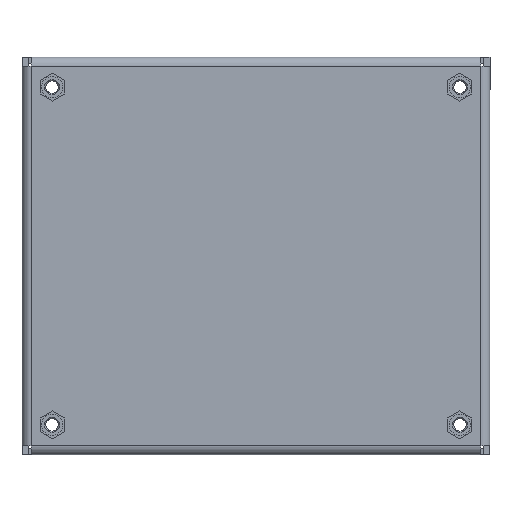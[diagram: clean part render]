
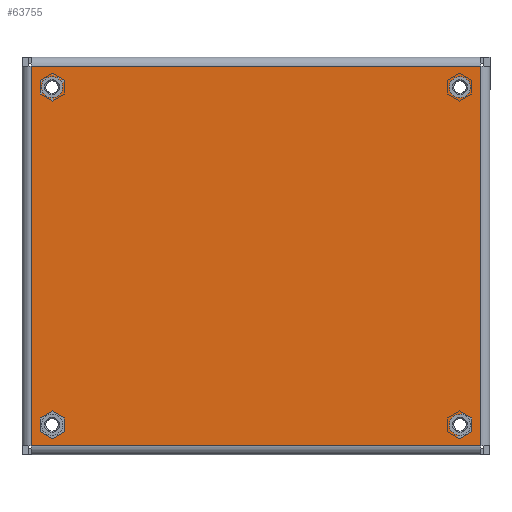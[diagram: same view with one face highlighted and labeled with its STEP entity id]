
A CAD part, front view. The second image highlights one B-rep face of the part: STEP entity #63755.
In plain terms, the highlighted planar face has unit normal (0, -1, 0) as drawn and (0, 0, -1) by its records, which use the part's own axes.
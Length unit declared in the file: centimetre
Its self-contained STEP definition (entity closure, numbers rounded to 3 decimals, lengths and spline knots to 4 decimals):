
#28250=CIRCLE('',#65922,0.211);
#28252=CIRCLE('',#65925,0.211);
#28254=CIRCLE('',#65928,0.211);
#28256=CIRCLE('',#65931,0.211);
#29212=VERTEX_POINT('',#79616);
#29239=VERTEX_POINT('',#79684);
#29253=VERTEX_POINT('',#79723);
#29255=VERTEX_POINT('',#79728);
#29257=VERTEX_POINT('',#79733);
#29259=VERTEX_POINT('',#79738);
#29260=VERTEX_POINT('',#79748);
#29262=VERTEX_POINT('',#79781);
#33113=VECTOR('',#69668,1.);
#33119=VECTOR('',#69685,1.);
#33126=VECTOR('',#69704,1.);
#33132=VECTOR('',#69722,1.);
#37307=LINE('',#79758,#33113);
#37313=LINE('',#79771,#33119);
#37320=LINE('',#79788,#33126);
#37326=LINE('',#79802,#33132);
#41502=EDGE_CURVE('',#29253,#29253,#28250,.T.);
#41504=EDGE_CURVE('',#29255,#29255,#28252,.T.);
#41506=EDGE_CURVE('',#29257,#29257,#28254,.T.);
#41508=EDGE_CURVE('',#29259,#29259,#28256,.T.);
#41519=EDGE_CURVE('',#29212,#29260,#37307,.T.);
#41527=EDGE_CURVE('',#29260,#29239,#37313,.T.);
#41536=EDGE_CURVE('',#29239,#29262,#37320,.T.);
#41544=EDGE_CURVE('',#29262,#29212,#37326,.T.);
#47492=ORIENTED_EDGE('',*,*,#41502,.T.);
#47493=ORIENTED_EDGE('',*,*,#41504,.T.);
#47494=ORIENTED_EDGE('',*,*,#41506,.T.);
#47495=ORIENTED_EDGE('',*,*,#41508,.T.);
#47496=ORIENTED_EDGE('',*,*,#41544,.F.);
#47497=ORIENTED_EDGE('',*,*,#41536,.F.);
#47498=ORIENTED_EDGE('',*,*,#41527,.F.);
#47499=ORIENTED_EDGE('',*,*,#41519,.F.);
#59035=EDGE_LOOP('',(#47492));
#59036=EDGE_LOOP('',(#47493));
#59037=EDGE_LOOP('',(#47494));
#59038=EDGE_LOOP('',(#47495));
#59039=EDGE_LOOP('',(#47496,#47497,#47498,#47499));
#61399=FACE_BOUND('',#59035,.T.);
#61400=FACE_BOUND('',#59036,.T.);
#61401=FACE_BOUND('',#59037,.T.);
#61402=FACE_BOUND('',#59038,.T.);
#61403=FACE_BOUND('',#59039,.T.);
#63755=ADVANCED_FACE('',(#61399,#61400,#61401,#61402,#61403),#100271,.F.);
#65922=AXIS2_PLACEMENT_3D('',#79722,#69625,#69626);
#65925=AXIS2_PLACEMENT_3D('',#79727,#69631,#69632);
#65928=AXIS2_PLACEMENT_3D('',#79732,#69637,#69638);
#65931=AXIS2_PLACEMENT_3D('',#79737,#69643,#69644);
#65967=AXIS2_PLACEMENT_3D('',#79804,#69724,$);
#69625=DIRECTION('',(0.,0.,1.));
#69626=DIRECTION('',(0.211,0.,0.));
#69631=DIRECTION('',(0.,0.,1.));
#69632=DIRECTION('',(0.211,0.,0.));
#69637=DIRECTION('',(0.,0.,1.));
#69638=DIRECTION('',(0.211,0.,0.));
#69643=DIRECTION('',(0.,0.,1.));
#69644=DIRECTION('',(0.211,0.,0.));
#69668=DIRECTION('',(1.,0.,0.));
#69685=DIRECTION('',(0.,1.,0.));
#69704=DIRECTION('',(-1.,0.,0.));
#69722=DIRECTION('',(0.,-1.,0.));
#69724=DIRECTION('',(0.,0.,1.));
#79616=CARTESIAN_POINT('',(-3.7846,-4.4831,0.));
#79684=CARTESIAN_POINT('',(3.7846,4.4831,0.));
#79722=CARTESIAN_POINT('',(-3.3655,-4.064,0.));
#79723=CARTESIAN_POINT('',(-3.5765,-4.064,0.));
#79727=CARTESIAN_POINT('',(3.3655,-4.064,0.));
#79728=CARTESIAN_POINT('',(3.1545,-4.064,0.));
#79732=CARTESIAN_POINT('',(-3.3655,4.064,0.));
#79733=CARTESIAN_POINT('',(-3.5765,4.064,0.));
#79737=CARTESIAN_POINT('',(3.3655,4.064,0.));
#79738=CARTESIAN_POINT('',(3.1545,4.064,0.));
#79748=CARTESIAN_POINT('',(3.7846,-4.4831,0.));
#79758=CARTESIAN_POINT('',(-3.7846,-4.4831,0.));
#79771=CARTESIAN_POINT('',(3.7846,-4.4831,0.));
#79781=CARTESIAN_POINT('',(-3.7846,4.4831,0.));
#79788=CARTESIAN_POINT('',(3.7846,4.4831,0.));
#79802=CARTESIAN_POINT('',(-3.7846,4.4831,0.));
#79804=CARTESIAN_POINT('',(0.,0.,0.));
#100271=PLANE('',#65967);
